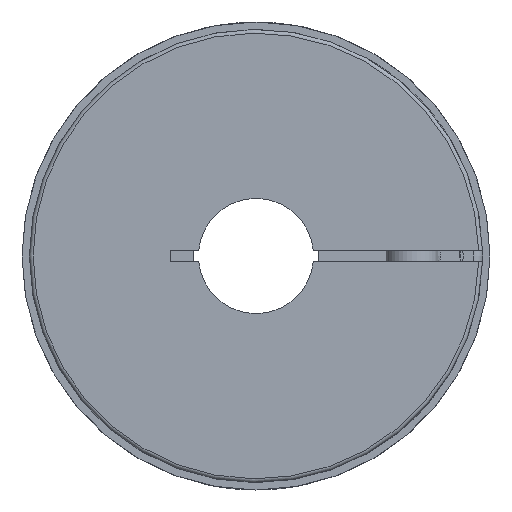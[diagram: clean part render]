
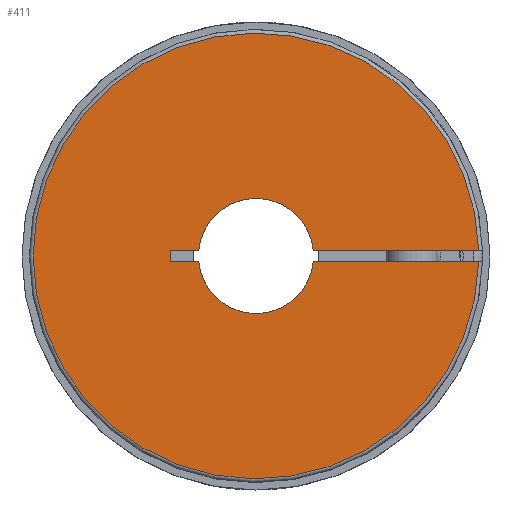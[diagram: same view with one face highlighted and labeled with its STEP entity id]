
A CAD part, left-side view. The second image highlights one B-rep face of the part: STEP entity #411.
In plain terms, the highlighted planar face has unit normal (-1, 0, 0).
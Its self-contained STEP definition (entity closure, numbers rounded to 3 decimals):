
#411 = ADVANCED_FACE( '', ( #910 ), #911, .T. );
#910 = FACE_OUTER_BOUND( '', #1503, .T. );
#911 = PLANE( '', #1504 );
#1503 = EDGE_LOOP( '', ( #2538, #2539, #2540, #2541, #2542, #2543, #2544, #2545 ) );
#1504 = AXIS2_PLACEMENT_3D( '', #2546, #2547, #2548 );
#2538 = ORIENTED_EDGE( '', *, *, #2735, .F. );
#2539 = ORIENTED_EDGE( '', *, *, #2957, .T. );
#2540 = ORIENTED_EDGE( '', *, *, #3125, .F. );
#2541 = ORIENTED_EDGE( '', *, *, #2881, .F. );
#2542 = ORIENTED_EDGE( '', *, *, #2834, .F. );
#2543 = ORIENTED_EDGE( '', *, *, #3072, .F. );
#2544 = ORIENTED_EDGE( '', *, *, #3126, .F. );
#2545 = ORIENTED_EDGE( '', *, *, #3127, .F. );
#2546 = CARTESIAN_POINT( '', ( 0., 15.5, 0. ) );
#2547 = DIRECTION( '', ( -1., 0., 0. ) );
#2548 = DIRECTION( '', ( 0., 1., 0. ) );
#2735 = EDGE_CURVE( '', #3172, #3174, #3175, .T. );
#2834 = EDGE_CURVE( '', #3343, #3341, #3345, .T. );
#2881 = EDGE_CURVE( '', #3341, #3419, #3421, .T. );
#2957 = EDGE_CURVE( '', #3172, #3531, #3533, .T. );
#3072 = EDGE_CURVE( '', #3691, #3343, #3693, .T. );
#3125 = EDGE_CURVE( '', #3419, #3531, #3752, .T. );
#3126 = EDGE_CURVE( '', #3753, #3691, #3754, .T. );
#3127 = EDGE_CURVE( '', #3174, #3753, #3755, .T. );
#3172 = VERTEX_POINT( '', #3815 );
#3174 = VERTEX_POINT( '', #3824 );
#3175 = LINE( '', #3825, #3826 );
#3341 = VERTEX_POINT( '', #4381 );
#3343 = VERTEX_POINT( '', #4384 );
#3345 = LINE( '', #4387, #4388 );
#3419 = VERTEX_POINT( '', #4485 );
#3421 = CIRCLE( '', #4488, 15.5 );
#3531 = VERTEX_POINT( '', #4635 );
#3533 = CIRCLE( '', #4644, 60. );
#3691 = VERTEX_POINT( '', #4837 );
#3693 = LINE( '', #4840, #4841 );
#3752 = LINE( '', #5011, #5012 );
#3753 = VERTEX_POINT( '', #5013 );
#3754 = LINE( '', #5014, #5015 );
#3755 = CIRCLE( '', #5016, 15.5 );
#3815 = CARTESIAN_POINT( '', ( 0., -59.981, 1.5 ) );
#3824 = CARTESIAN_POINT( '', ( 0., -15.427, 1.5 ) );
#3825 = CARTESIAN_POINT( '', ( 0., 23., 1.5 ) );
#3826 = VECTOR( '', #5052, 1000. );
#4381 = CARTESIAN_POINT( '', ( 0., 15.427, -1.5 ) );
#4384 = CARTESIAN_POINT( '', ( 0., 23., -1.5 ) );
#4387 = CARTESIAN_POINT( '', ( 0., 23., -1.5 ) );
#4388 = VECTOR( '', #5214, 1000. );
#4485 = CARTESIAN_POINT( '', ( 0., -15.427, -1.5 ) );
#4488 = AXIS2_PLACEMENT_3D( '', #5276, #5277, #5278 );
#4635 = CARTESIAN_POINT( '', ( 0., -59.981, -1.5 ) );
#4644 = AXIS2_PLACEMENT_3D( '', #5381, #5382, #5383 );
#4837 = CARTESIAN_POINT( '', ( 0., 23., 1.5 ) );
#4840 = CARTESIAN_POINT( '', ( 0., 23., -1.5 ) );
#4841 = VECTOR( '', #5543, 1000. );
#5011 = CARTESIAN_POINT( '', ( 0., 23., -1.5 ) );
#5012 = VECTOR( '', #5578, 1000. );
#5013 = CARTESIAN_POINT( '', ( 0., 15.427, 1.5 ) );
#5014 = CARTESIAN_POINT( '', ( 0., 23., 1.5 ) );
#5015 = VECTOR( '', #5579, 1000. );
#5016 = AXIS2_PLACEMENT_3D( '', #5580, #5581, #5582 );
#5052 = DIRECTION( '', ( 0., 1., 0. ) );
#5214 = DIRECTION( '', ( 0., -1., 0. ) );
#5276 = CARTESIAN_POINT( '', ( 0., 0., 0. ) );
#5277 = DIRECTION( '', ( -1., 0., 0. ) );
#5278 = DIRECTION( '', ( 0., 1., 0. ) );
#5381 = CARTESIAN_POINT( '', ( 0., 0., 0. ) );
#5382 = DIRECTION( '', ( -1., 0., 0. ) );
#5383 = DIRECTION( '', ( 0., 1., 0. ) );
#5543 = DIRECTION( '', ( 0., 0., -1. ) );
#5578 = DIRECTION( '', ( 0., -1., 0. ) );
#5579 = DIRECTION( '', ( 0., 1., 0. ) );
#5580 = CARTESIAN_POINT( '', ( 0., 0., 0. ) );
#5581 = DIRECTION( '', ( -1., 0., 0. ) );
#5582 = DIRECTION( '', ( 0., 1., 0. ) );
